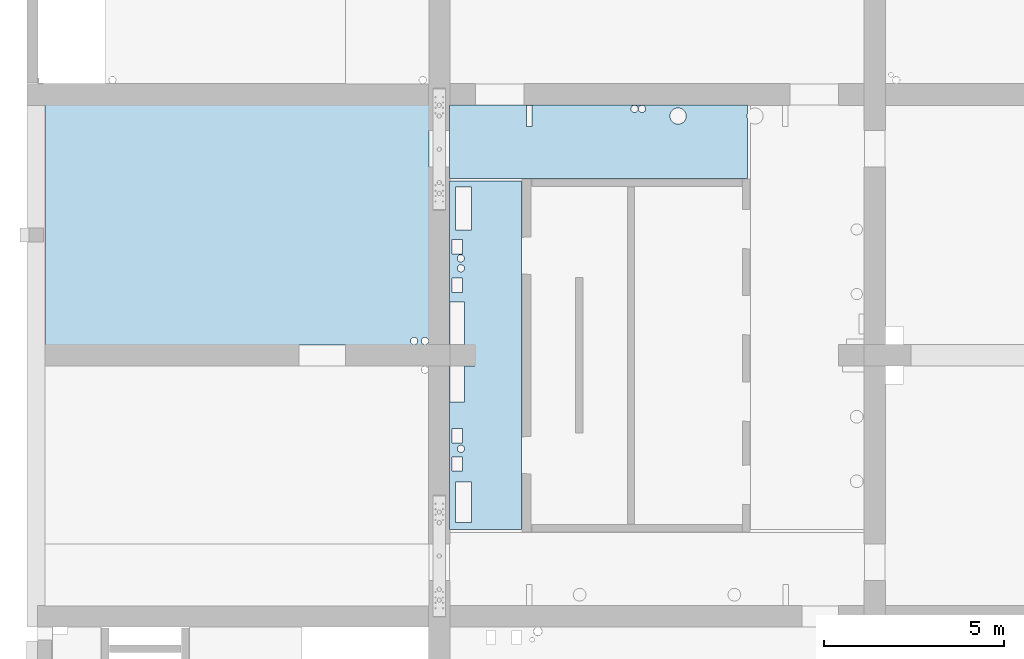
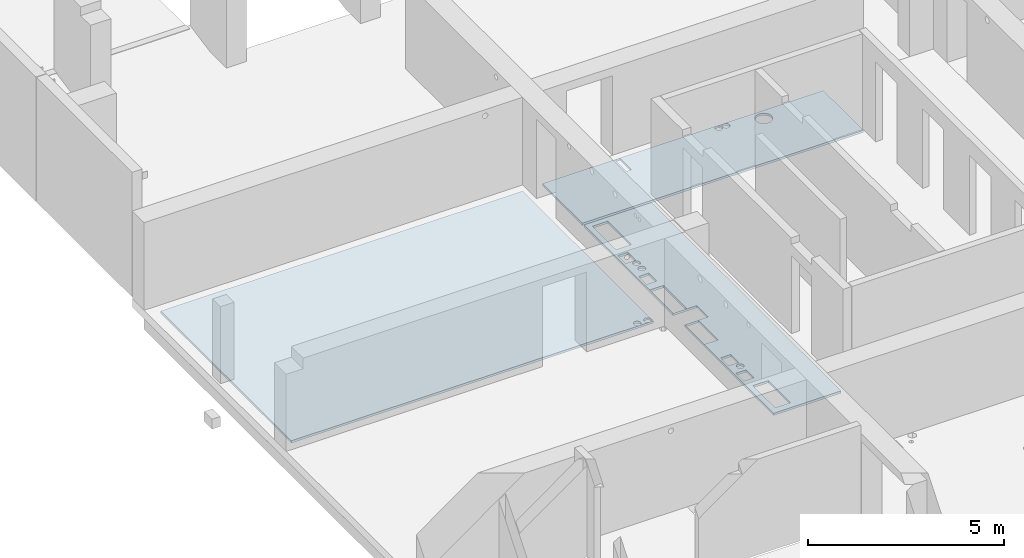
# One storey, part 18 of 27: 3 slabs, 60 openings.
"""IFC2X3 building model written with IfcOpenShell, lengths in millimetres."""

import ifcopenshell
import ifcopenshell.guid

model = None  # the IFC model being written
_history = None  # IfcOwnerHistory: only IFC2X3 demands one
_inside = {}  # id of a spatial element -> (the spatial element, [elements in it])
_under = {}  # id of a project, library or spatial element -> (it, [spatial elements below it])
_declared = {}  # id of a project -> (the project, [libraries it declares])
_typed = {}  # id of a type object -> (the type object, [elements of that type])
_made_of = {}  # id of a material, layer set ... -> (it, [elements and type objects made of it])


def new_model(schema):
    """Start an empty IFC model of exactly this schema.

    Asked for "IFC4X3", IfcOpenShell would pick the latest addendum, in which some entities
    have other attributes; the version numbers below select the first issue.
    IFC2X3 requires an IfcOwnerHistory on every rooted entity: one is made here for all.
    """
    global model, _history
    if schema == "IFC4X3":
        model = ifcopenshell.file(schema_version=(4, 3, 0, 0))
    else:
        model = ifcopenshell.file(schema=schema)
    _inside.clear()
    _under.clear()
    _declared.clear()
    _typed.clear()
    _made_of.clear()
    _history = None
    if model.schema == "IFC2X3":
        org = make("IfcOrganization", Name="unknown")
        user = make(
            "IfcPersonAndOrganization",
            ThePerson=make("IfcPerson", FamilyName="unknown"),
            TheOrganization=org,
        )
        app = make(
            "IfcApplication",
            ApplicationDeveloper=org,
            Version="unknown",
            ApplicationFullName="unknown",
            ApplicationIdentifier="unknown",
        )
        _history = make(
            "IfcOwnerHistory",
            OwningUser=user,
            OwningApplication=app,
            ChangeAction="ADDED",
            CreationDate=0,
        )
    return model


def make(cls, **values):
    """One entity of the class cls with the attributes given. An attribute that is None is left unset."""
    return model.create_entity(
        cls, **{name: value for name, value in values.items() if value is not None}
    )


def entity(cls, *values):
    """Any entity or typed value of the class cls, its attributes in the order of the schema. None: left unset."""
    e = model.create_entity(cls)
    for i, value in enumerate(values):
        if value is not None:
            e[i] = value
    return e


def rooted(cls, **values):
    """An entity with a GlobalId (a new one), such as an element, a storey or a relation."""
    return make(cls, GlobalId=ifcopenshell.guid.new(), OwnerHistory=_history, **values)


def si_unit(unit_type, name, prefix=None):
    """IfcSIUnit, for example si_unit("LENGTHUNIT", "METRE", prefix="MILLI")."""
    return make("IfcSIUnit", UnitType=unit_type, Prefix=prefix, Name=name)


def converted_unit(unit_type, name, factor, base, dimensions=None, offset=None):
    """IfcConversionBasedUnit, such as the inch: factor (a typed value) times the base unit."""
    return make(
        "IfcConversionBasedUnit"
        if offset is None
        else "IfcConversionBasedUnitWithOffset",
        ConversionOffset=offset,
        Dimensions=None
        if dimensions is None
        else entity("IfcDimensionalExponents", *dimensions),
        UnitType=unit_type,
        Name=name,
        ConversionFactor=make(
            "IfcMeasureWithUnit", ValueComponent=factor, UnitComponent=base
        ),
    )


def derived_unit(unit_type, elements):
    """IfcDerivedUnit: a product of units, each with its exponent."""
    return make(
        "IfcDerivedUnit",
        Elements=[
            make("IfcDerivedUnitElement", Unit=unit, Exponent=power)
            for unit, power in elements
        ],
        UnitType=unit_type,
    )


def assignment(units):
    """IfcUnitAssignment: the units of a project."""
    return None if units is None else make("IfcUnitAssignment", Units=units)


def point(xyz):
    """IfcCartesianPoint."""
    return None if xyz is None else make("IfcCartesianPoint", Coordinates=xyz)


def direction(xyz):
    """IfcDirection."""
    return None if xyz is None else make("IfcDirection", DirectionRatios=xyz)


def frame(location, z_axis=None, x_axis=None):
    """IfcAxis2Placement3D, a coordinate frame: its origin and axes. An axis left out is left unset."""
    return make(
        "IfcAxis2Placement3D",
        Location=point(location),
        Axis=direction(z_axis),
        RefDirection=direction(x_axis),
    )


def frame_2d(location, x_axis=None):
    """IfcAxis2Placement2D, a coordinate frame in the plane: its origin and x axis."""
    return make(
        "IfcAxis2Placement2D", Location=point(location), RefDirection=direction(x_axis)
    )


def origin():
    """The frame at (0, 0, 0) with its axes left unset."""
    return frame((0.0, 0.0, 0.0))


def origin_2d_with_axis():
    """The frame at (0, 0) in the plane with the x axis (1, 0) written out."""
    return frame_2d((0.0, 0.0), x_axis=(1.0, 0.0))


def place(relative_to, where):
    """IfcLocalPlacement: puts the frame where relative to a parent placement (None: the world)."""
    return make(
        "IfcLocalPlacement", PlacementRelTo=relative_to, RelativePlacement=where
    )


def context(
    kind, dimensions, precision=None, world=None, true_north=None, identifier=None
):
    """IfcGeometricRepresentationContext, for example the 3D "Model" context."""
    return make(
        "IfcGeometricRepresentationContext",
        ContextIdentifier=identifier,
        ContextType=kind,
        CoordinateSpaceDimension=dimensions,
        Precision=precision,
        WorldCoordinateSystem=world,
        TrueNorth=true_north,
    )


def subcontext(parent, identifier, kind, view, scale=None):
    """IfcGeometricRepresentationSubContext, for example "Body" below "Model"."""
    return make(
        "IfcGeometricRepresentationSubContext",
        ContextIdentifier=identifier,
        ContextType=kind,
        ParentContext=parent,
        TargetScale=scale,
        TargetView=view,
    )


def project(units=None, contexts=None):
    """IfcProject with its units and contexts."""
    return rooted(
        "IfcProject",
        Name="project",
        RepresentationContexts=contexts,
        UnitsInContext=assignment(units),
    )


def spatial(cls, under=None, at=None, **own):
    """A site, building, storey or space (cls), placed at a placement, below another one or the project."""
    s = rooted(cls, ObjectPlacement=at, **own)
    if under is not None:
        _under.setdefault(under.id(), (under, []))[1].append(s)
    return s


def polyline(points):
    """IfcPolyline through the points."""
    return make("IfcPolyline", Points=[point(p) for p in points])


def profile(cls, at=None, kind="AREA", **sizes):
    """A parametric profile (cls). Its sizes go by their IFC names, for example OverallWidth=200.0."""
    return make(cls, ProfileType=kind, Position=at, **sizes)


def rectangle(**sizes):
    """IfcRectangleProfileDef."""
    return profile("IfcRectangleProfileDef", **sizes)


def circle(**sizes):
    """IfcCircleProfileDef."""
    return profile("IfcCircleProfileDef", **sizes)


def outline(outer, holes=None, kind="AREA"):
    """IfcArbitraryClosedProfileDef: a profile drawn as a closed curve; with holes, ...WithVoids."""
    if holes is None:
        return make("IfcArbitraryClosedProfileDef", ProfileType=kind, OuterCurve=outer)
    return make(
        "IfcArbitraryProfileDefWithVoids",
        ProfileType=kind,
        OuterCurve=outer,
        InnerCurves=holes,
    )


def extrude(swept, where, along, depth):
    """IfcExtrudedAreaSolid: the profile swept, set in the frame where, extruded along a direction by depth."""
    return make(
        "IfcExtrudedAreaSolid",
        SweptArea=swept,
        Position=where,
        ExtrudedDirection=direction(along),
        Depth=depth,
    )


def shape(context_of_items, identifier, shape_type, items):
    """IfcShapeRepresentation: the items that make up one representation, for example the "Body"."""
    return make(
        "IfcShapeRepresentation",
        ContextOfItems=context_of_items,
        RepresentationIdentifier=identifier,
        RepresentationType=shape_type,
        Items=items,
    )


def material(Name=None, Category=None):
    """IfcMaterial."""
    return make("IfcMaterial", Name=Name, Category=Category)


def layer(
    of_material, thickness, ventilated=None, Name=None, Category=None, Priority=None
):
    """IfcMaterialLayer: one layer of a wall or slab, of a material (None: an air gap)."""
    return make(
        "IfcMaterialLayer",
        Material=of_material,
        LayerThickness=thickness,
        IsVentilated=ventilated,
        Name=Name,
        Category=Category,
        Priority=Priority,
    )


def layer_set(layers, Name=None):
    """IfcMaterialLayerSet."""
    return make("IfcMaterialLayerSet", MaterialLayers=layers, LayerSetName=Name)


def layer_usage(for_layer_set, set_direction, sense, offset, extent=None):
    """IfcMaterialLayerSetUsage: how a layer set lies in its element."""
    return make(
        "IfcMaterialLayerSetUsage",
        ForLayerSet=for_layer_set,
        LayerSetDirection=set_direction,
        DirectionSense=sense,
        OffsetFromReferenceLine=offset,
        ReferenceExtent=extent,
    )


def made_of(thing, what):
    """Note that an element or type object is made of a material, layer set ...; save() writes the relation."""
    if what is not None:
        _made_of.setdefault(what.id(), (what, []))[1].append(thing)
    return thing


def element(
    cls,
    number,
    at=None,
    inside=None,
    cuts=None,
    type_object=None,
    material=None,
    context=None,
    identifier="Body",
    shape_type=None,
    held_by="IfcProductDefinitionShape",
    body=None,
    shapes=None,
    **own,
):
    """One element of the class cls, such as IfcWall. Its Tag is "e" and its number.

    at: its placement. inside: the storey or other place that contains it. cuts: it is an
    opening in that element (IfcRelVoidsElement). A single representation is given by context,
    identifier, shape_type and body (its items); several are given by shapes. held_by: the class
    of the entity that holds the representations. save() writes the other relations.
    """
    e = rooted(cls, Tag="e%d" % number, ObjectPlacement=at, **own)
    if body is not None:
        shapes = [shape(context, identifier, shape_type, body)]
    if shapes is not None:
        e.Representation = make(held_by, Representations=shapes)
    if inside is not None:
        _inside.setdefault(inside.id(), (inside, []))[1].append(e)
    if cuts is not None:
        rooted(
            "IfcRelVoidsElement", RelatingBuildingElement=cuts, RelatedOpeningElement=e
        )
    if type_object is not None:
        _typed.setdefault(type_object.id(), (type_object, []))[1].append(e)
    return made_of(e, material)


def aggregate(whole, parts):
    """IfcRelAggregates: a whole, such as a stair, and the parts it consists of."""
    return rooted("IfcRelAggregates", RelatingObject=whole, RelatedObjects=parts)


def save(model, path):
    """Write the relations noted so far, then the file.

    IfcRelAggregates (storeys below a building ...), IfcRelContainedInSpatialStructure (elements
    in a storey), IfcRelDefinesByType, IfcRelAssociatesMaterial and IfcRelDeclares: one each for
    every whole, place, type object, material and project.
    """
    for whole, parts in _under.values():
        aggregate(whole, parts)
    for where, things in _inside.values():
        rooted(
            "IfcRelContainedInSpatialStructure",
            RelatedElements=things,
            RelatingStructure=where,
        )
    for kind, things in _typed.values():
        rooted("IfcRelDefinesByType", RelatedObjects=things, RelatingType=kind)
    for what, things in _made_of.values():
        rooted("IfcRelAssociatesMaterial", RelatedObjects=things, RelatingMaterial=what)
    for by, libraries in _declared.values():
        rooted("IfcRelDeclares", RelatingContext=by, RelatedDefinitions=libraries)
    model.write(path)


model = new_model("IFC2X3")

# Units and contexts
model_context = context("Model", 3, precision=0.01, world=origin(), true_north=direction((6.12303176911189e-17, 1.0)))
body_context = subcontext(model_context, "Body", "Model", "MODEL_VIEW")
ifc_project = project(units=[si_unit("LENGTHUNIT", "METRE", prefix="MILLI"), si_unit("AREAUNIT", "SQUARE_METRE"), si_unit("VOLUMEUNIT", "CUBIC_METRE"), converted_unit("PLANEANGLEUNIT", "DEGREE", entity("IfcRatioMeasure", 0.0174532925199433), si_unit("PLANEANGLEUNIT", "RADIAN"), dimensions=[0, 0, 0, 0, 0, 0, 0]), si_unit("MASSUNIT", "GRAM", prefix="KILO"), derived_unit("MASSDENSITYUNIT", [(si_unit("MASSUNIT", "GRAM", prefix="KILO"), 1), (si_unit("LENGTHUNIT", "METRE"), -3)]), si_unit("TIMEUNIT", "SECOND"), si_unit("FREQUENCYUNIT", "HERTZ"), si_unit("THERMODYNAMICTEMPERATUREUNIT", "DEGREE_CELSIUS"), derived_unit("THERMALTRANSMITTANCEUNIT", [(si_unit("MASSUNIT", "GRAM", prefix="KILO"), 1), (si_unit("THERMODYNAMICTEMPERATUREUNIT", "KELVIN"), -1), (si_unit("TIMEUNIT", "SECOND"), -3)]), derived_unit("VOLUMETRICFLOWRATEUNIT", [(si_unit("LENGTHUNIT", "METRE"), 3), (si_unit("TIMEUNIT", "SECOND"), -1)]), si_unit("ELECTRICCURRENTUNIT", "AMPERE"), si_unit("ELECTRICVOLTAGEUNIT", "VOLT"), si_unit("POWERUNIT", "WATT"), si_unit("FORCEUNIT", "NEWTON", prefix="KILO"), si_unit("ILLUMINANCEUNIT", "LUX"), si_unit("LUMINOUSFLUXUNIT", "LUMEN"), si_unit("LUMINOUSINTENSITYUNIT", "CANDELA"), derived_unit("USERDEFINED", [(si_unit("MASSUNIT", "GRAM", prefix="KILO"), -1), (si_unit("LENGTHUNIT", "METRE"), -2), (si_unit("TIMEUNIT", "SECOND"), 3), (si_unit("LUMINOUSFLUXUNIT", "LUMEN"), 1)]), derived_unit("LINEARVELOCITYUNIT", [(si_unit("LENGTHUNIT", "METRE"), 1), (si_unit("TIMEUNIT", "SECOND"), -1)]), si_unit("PRESSUREUNIT", "PASCAL"), derived_unit("USERDEFINED", [(si_unit("LENGTHUNIT", "METRE"), -2), (si_unit("MASSUNIT", "GRAM", prefix="KILO"), 1), (si_unit("TIMEUNIT", "SECOND"), -2)])], contexts=[model_context])

# Site, building, storey
site_placement = place(None, origin())
site = spatial("IfcSite", under=ifc_project, at=site_placement, Name="Default", CompositionType="ELEMENT")
building_placement = place(site_placement, origin())
building = spatial("IfcBuilding", under=site, at=building_placement, Name="niet gebruiken", CompositionType="ELEMENT")
storey_placement = place(building_placement, frame((0.0, 0.0, 6000.0)))
storey = spatial("IfcBuildingStorey", under=building, at=storey_placement, Name="01 eerste verdieping", CompositionType="ELEMENT", Elevation=6000.0)

# Slab, openings
ifc_material = material(Name="NLRS_f2_beton prefab")
ifc_layer = layer(ifc_material, 70.0)
ifc_layer_set = layer_set([ifc_layer], Name="Floor:NLRS_23.21_FL_breedplaat d=70_gen")
ifc_layer_usage_1 = layer_usage(ifc_layer_set, "AXIS3", "POSITIVE", 0.0)
slab_1_placement = place(storey_placement, frame((124740.0, 12266.0, -360.0)))
slab_1 = element("IfcSlab", 1, at=slab_1_placement, inside=storey, material=ifc_layer_usage_1, Name="Floor:NLRS_23.21_FL_breedplaat d=70_gen:2", ObjectType="Floor:NLRS_23.21_FL_breedplaat d=70_gen", PredefinedType="FLOOR", context=body_context, shape_type="SweptSolid", body=[
    extrude(rectangle(XDim=6670.00000000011, YDim=10669.9999999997, at=frame_2d((0.0, -1378.0), x_axis=(0.0, -1.0))), frame((5335.0, 10237.0, 70.0), z_axis=(0.0, 0.0, -1.0), x_axis=(-1.0, 0.0, 0.0)), (0.0, 0.0, 1.0), 70.0000000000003),
])
placement_1 = place(storey_placement, frame((124740.0, 12266.0, -360.0)))
opening_1_placement = place(placement_1, origin())
element("IfcOpeningElement", 2, at=opening_1_placement, cuts=slab_1, ObjectType="Opening", context=body_context, shape_type="SweptSolid", body=[
    extrude(circle(Radius=100.0, at=origin_2d_with_axis()), frame((10560.0, 4834.0, 0.0), z_axis=(0.0, 0.0, 1.0), x_axis=(0.0, -1.0, 0.0)), (0.0, 0.0, 1.0), 270.0),
])
opening_2_placement = place(placement_1, origin())
element("IfcOpeningElement", 3, at=opening_2_placement, cuts=slab_1, ObjectType="Opening", context=body_context, shape_type="SweptSolid", body=[
    extrude(circle(Radius=100.0, at=origin_2d_with_axis()), frame((10560.0, 5634.0, 0.0), z_axis=(0.0, 0.0, 1.0), x_axis=(0.0, -1.0, 0.0)), (0.0, 0.0, 1.0), 270.0),
])
opening_3_placement = place(placement_1, origin())
element("IfcOpeningElement", 4, at=opening_3_placement, cuts=slab_1, ObjectType="Opening", context=body_context, shape_type="SweptSolid", body=[
    extrude(circle(Radius=100.0, at=origin_2d_with_axis()), frame((10260.0, 5634.0, 0.0), z_axis=(0.0, 0.0, 1.0), x_axis=(0.0, -1.0, 0.0)), (0.0, 0.0, 1.0), 270.0),
])
opening_4_placement = place(placement_1, origin())
element("IfcOpeningElement", 5, at=opening_4_placement, cuts=slab_1, ObjectType="Opening", context=body_context, shape_type="SweptSolid", body=[
    extrude(circle(Radius=100.0, at=origin_2d_with_axis()), frame((1880.0, 12884.0, 0.0), z_axis=(0.0, 0.0, 1.0), x_axis=(-1.0, 0.0, 0.0)), (0.0, 0.0, 1.0), 270.0),
])

ifc_layer_usage_2 = layer_usage(ifc_layer_set, "AXIS3", "POSITIVE", 0.0)
slab_2_placement = place(storey_placement, frame((135990.0, 10540.0, -330.0)))
slab_2 = element("IfcSlab", 6, at=slab_2_placement, inside=storey, material=ifc_layer_usage_2, Name="Floor:NLRS_23.21_FL_breedplaat d=70_gen", ObjectType="Floor:NLRS_23.21_FL_breedplaat d=70_gen", PredefinedType="FLOOR", context=body_context, shape_type="SweptSolid", body=[
    extrude(outline(polyline([(5760.0, -4840.0), (5760.0, -290.0), (5060.0, -290.0), (5060.0, 290.0), (5760.0, 290.0), (5760.0, 4840.0), (3770.0, 4840.0), (3770.0, -4840.0), (5760.0, -4840.0)])), frame((5760.0, 6960.0, 70.0), z_axis=(0.0, 0.0, -1.0), x_axis=(-1.0, 0.0, 0.0)), (0.0, 0.0, 1.0), 70.0000000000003),
])
placement_2 = place(slab_2_placement, origin())
element("IfcOpeningElement", 7, at=placement_2, cuts=slab_2, ObjectType="Opening", context=body_context, shape_type="SweptSolid", body=[
    extrude(circle(Radius=225.0, at=origin_2d_with_axis()), frame((8485.0, 13610.0, 0.0), z_axis=(0.0, 0.0, 1.0), x_axis=(-1.0, 0.0, 0.0)), (0.0, 0.0, 1.0), 240.0),
])
placement_3 = place(slab_2_placement, origin())
element("IfcOpeningElement", 8, at=placement_3, cuts=slab_2, ObjectType="Opening", context=body_context, shape_type="SweptSolid", body=[
    extrude(circle(Radius=100.0, at=origin_2d_with_axis()), frame((5135.0, 13810.0, 0.0), z_axis=(0.0, 0.0, 1.0), x_axis=(-1.0, 0.0, 0.0)), (0.0, 0.0, 1.0), 240.0),
])
placement_4 = place(slab_2_placement, origin())
element("IfcOpeningElement", 9, at=placement_4, cuts=slab_2, ObjectType="Opening", context=body_context, shape_type="SweptSolid", body=[
    extrude(circle(Radius=100.0, at=origin_2d_with_axis()), frame((5345.0, 13810.0, 0.0), z_axis=(0.0, 0.0, 1.0), x_axis=(-1.0, 0.0, 0.0)), (0.0, 0.0, 1.0), 240.0),
])
placement_5 = place(slab_2_placement, origin())
element("IfcOpeningElement", 10, at=placement_5, cuts=slab_2, ObjectType="Opening", context=body_context, shape_type="SweptSolid", body=[
    extrude(circle(Radius=100.0, at=origin_2d_with_axis()), frame((310.0, 4365.0, 0.0), z_axis=(0.0, 0.0, 1.0), x_axis=(0.0, 1.0, 0.0)), (0.0, 0.0, 1.0), 240.0),
])
placement_6 = place(slab_2_placement, origin())
element("IfcOpeningElement", 11, at=placement_6, cuts=slab_2, ObjectType="Opening", context=body_context, shape_type="SweptSolid", body=[
    extrude(rectangle(XDim=150.000000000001, YDim=590.000000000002, at=origin_2d_with_axis()), frame((2210.0, 305.0, 0.0)), (0.0, 0.0, 1.0), 240.0),
])
placement_7 = place(slab_2_placement, origin())
element("IfcOpeningElement", 12, at=placement_7, cuts=slab_2, ObjectType="Opening", context=body_context, shape_type="SweptSolid", body=[
    extrude(circle(Radius=177.5, at=origin_2d_with_axis()), frame((11310.0, 3461.0, 0.0), z_axis=(0.0, 0.0, 1.0), x_axis=(0.0, 1.0, 0.0)), (0.0, 0.0, 1.0), 240.0),
])
placement_8 = place(slab_2_placement, origin())
element("IfcOpeningElement", 13, at=placement_8, cuts=slab_2, ObjectType="Opening", context=body_context, shape_type="SweptSolid", body=[
    extrude(rectangle(XDim=1000.0, YDim=400.000000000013, at=origin_2d_with_axis()), frame((210.0, 6160.0, 0.0), z_axis=(0.0, 0.0, 1.0), x_axis=(0.0, -1.0, 0.0)), (0.0, 0.0, 1.0), 240.0),
])
placement_9 = place(slab_2_placement, origin())
element("IfcOpeningElement", 14, at=placement_9, cuts=slab_2, ObjectType="Opening", context=body_context, shape_type="SweptSolid", body=[
    extrude(rectangle(XDim=400.000000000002, YDim=300.000000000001, at=origin_2d_with_axis()), frame((210.0, 4730.0, 0.0), z_axis=(0.0, 0.0, 1.0), x_axis=(0.0, -1.0, 0.0)), (0.0, 0.0, 1.0), 240.0),
])
placement_10 = place(slab_2_placement, origin())
element("IfcOpeningElement", 15, at=placement_10, cuts=slab_2, ObjectType="Opening", context=body_context, shape_type="SweptSolid", body=[
    extrude(rectangle(XDim=1190.0, YDim=400.000000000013, at=origin_2d_with_axis()), frame((210.0, 7855.0, 0.0), z_axis=(0.0, 0.0, 1.0), x_axis=(0.0, -1.0, 0.0)), (0.0, 0.0, 1.0), 240.0),
])
placement_11 = place(slab_2_placement, origin())
element("IfcOpeningElement", 16, at=placement_11, cuts=slab_2, ObjectType="Opening", context=body_context, shape_type="SweptSolid", body=[
    extrude(rectangle(XDim=400.000000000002, YDim=300.000000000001, at=origin_2d_with_axis()), frame((210.0, 8910.0, 0.0), z_axis=(0.0, 0.0, 1.0), x_axis=(0.0, -1.0, 0.0)), (0.0, 0.0, 1.0), 240.0),
])
placement_12 = place(slab_2_placement, origin())
element("IfcOpeningElement", 17, at=placement_12, cuts=slab_2, ObjectType="Opening", context=body_context, shape_type="SweptSolid", body=[
    extrude(rectangle(XDim=1200.0, YDim=450.000000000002, at=origin_2d_with_axis()), frame((385.0, 11040.0, 0.0), z_axis=(0.0, 0.0, 1.0), x_axis=(0.0, -1.0, 0.0)), (0.0, 0.0, 1.0), 240.0),
])
placement_13 = place(slab_2_placement, origin())
element("IfcOpeningElement", 18, at=placement_13, cuts=slab_2, ObjectType="Opening", context=body_context, shape_type="SweptSolid", body=[
    extrude(rectangle(XDim=600.000000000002, YDim=155.000000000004, at=origin_2d_with_axis()), frame((11210.0, 6582.49999999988, 0.0)), (0.0, 0.0, 1.0), 240.0),
])
placement_14 = place(slab_2_placement, origin())
element("IfcOpeningElement", 19, at=placement_14, cuts=slab_2, ObjectType="Opening", context=body_context, shape_type="SweptSolid", body=[
    extrude(rectangle(XDim=489.999999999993, YDim=150.000000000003, at=origin_2d_with_axis()), frame((11265.0, 7335.0, 0.0)), (0.0, 0.0, 1.0), 240.0),
])
placement_15 = place(slab_2_placement, origin())
element("IfcOpeningElement", 20, at=placement_15, cuts=slab_2, ObjectType="Opening", context=body_context, shape_type="SweptSolid", body=[
    extrude(rectangle(XDim=150.000000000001, YDim=590.000000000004, at=origin_2d_with_axis()), frame((9325.0, 13615.0, 0.0)), (0.0, 0.0, 1.0), 240.0),
])
placement_16 = place(slab_2_placement, origin())
element("IfcOpeningElement", 21, at=placement_16, cuts=slab_2, ObjectType="Opening", context=body_context, shape_type="SweptSolid", body=[
    extrude(rectangle(XDim=150.000000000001, YDim=590.000000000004, at=origin_2d_with_axis()), frame((2205.0, 13615.0, 0.0)), (0.0, 0.0, 1.0), 240.0),
])
placement_17 = place(slab_2_placement, origin())
element("IfcOpeningElement", 22, at=placement_17, cuts=slab_2, ObjectType="Opening", context=body_context, shape_type="SweptSolid", body=[
    extrude(circle(Radius=157.5, at=origin_2d_with_axis()), frame((11310.0, 10460.0, 0.0), z_axis=(0.0, 0.0, 1.0), x_axis=(0.0, 1.0, 0.0)), (0.0, 0.0, 1.0), 240.0),
])
placement_18 = place(slab_2_placement, origin())
element("IfcOpeningElement", 23, at=placement_18, cuts=slab_2, ObjectType="Opening", context=body_context, shape_type="SweptSolid", body=[
    extrude(circle(Radius=157.5, at=origin_2d_with_axis()), frame((11310.0, 8665.0, 0.0), z_axis=(0.0, 0.0, 1.0), x_axis=(0.0, 1.0, 0.0)), (0.0, 0.0, 1.0), 240.0),
])
placement_19 = place(slab_2_placement, origin())
element("IfcOpeningElement", 24, at=placement_19, cuts=slab_2, ObjectType="Opening", context=body_context, shape_type="SweptSolid", body=[
    extrude(rectangle(XDim=550.000000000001, YDim=140.000000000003, at=origin_2d_with_axis()), frame((11440.0, 7830.0, 0.0), z_axis=(0.0, 0.0, 1.0), x_axis=(0.0, -1.0, 0.0)), (0.0, 0.0, 1.0), 240.0),
])
placement_20 = place(slab_2_placement, origin())
element("IfcOpeningElement", 25, at=placement_20, cuts=slab_2, ObjectType="Opening", context=body_context, shape_type="SweptSolid", body=[
    extrude(circle(Radius=177.5, at=origin_2d_with_axis()), frame((11310.0, 5255.0, 0.0), z_axis=(0.0, 0.0, 1.0), x_axis=(0.0, 1.0, 0.0)), (0.0, 0.0, 1.0), 240.0),
])
placement_21 = place(slab_2_placement, origin())
element("IfcOpeningElement", 26, at=placement_21, cuts=slab_2, ObjectType="Opening", context=body_context, shape_type="SweptSolid", body=[
    extrude(rectangle(XDim=150.000000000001, YDim=590.000000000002, at=origin_2d_with_axis()), frame((9335.0, 305.0, 0.0)), (0.0, 0.0, 1.0), 240.0),
])
placement_22 = place(slab_2_placement, origin())
element("IfcOpeningElement", 27, at=placement_22, cuts=slab_2, ObjectType="Opening", context=body_context, shape_type="SweptSolid", body=[
    extrude(circle(Radius=177.5, at=origin_2d_with_axis()), frame((7910.0, 310.0, 0.0), z_axis=(0.0, 0.0, 1.0), x_axis=(-1.0, 0.0, 0.0)), (0.0, 0.0, 1.0), 240.0),
])
placement_23 = place(slab_2_placement, origin())
element("IfcOpeningElement", 28, at=placement_23, cuts=slab_2, ObjectType="Opening", context=body_context, shape_type="SweptSolid", body=[
    extrude(circle(Radius=177.5, at=origin_2d_with_axis()), frame((3610.0, 310.0, 0.0), z_axis=(0.0, 0.0, 1.0), x_axis=(-1.0, 0.0, 0.0)), (0.0, 0.0, 1.0), 240.0),
])
placement_24 = place(slab_2_placement, origin())
element("IfcOpeningElement", 29, at=placement_24, cuts=slab_2, ObjectType="Opening", context=body_context, shape_type="SweptSolid", body=[
    extrude(rectangle(XDim=1129.0, YDim=450.000000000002, at=origin_2d_with_axis()), frame((385.0, 2884.49999999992, 0.0), z_axis=(0.0, 0.0, 1.0), x_axis=(0.0, -1.0, 0.0)), (0.0, 0.0, 1.0), 240.0),
])
placement_25 = place(slab_2_placement, origin())
element("IfcOpeningElement", 30, at=placement_25, cuts=slab_2, ObjectType="Opening", context=body_context, shape_type="SweptSolid", body=[
    extrude(rectangle(XDim=400.000000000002, YDim=300.000000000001, at=origin_2d_with_axis()), frame((210.0, 3943.0, 0.0), z_axis=(0.0, 0.0, 1.0), x_axis=(0.0, -1.0, 0.0)), (0.0, 0.0, 1.0), 240.0),
])
placement_26 = place(slab_2_placement, origin())
element("IfcOpeningElement", 31, at=placement_26, cuts=slab_2, ObjectType="Opening", context=body_context, shape_type="SweptSolid", body=[
    extrude(circle(Radius=225.0, at=origin_2d_with_axis()), frame((6345.0, 13610.0, 0.0), z_axis=(0.0, 0.0, 1.0), x_axis=(-1.0, 0.0, 0.0)), (0.0, 0.0, 1.0), 240.0),
])
placement_27 = place(slab_2_placement, origin())
element("IfcOpeningElement", 32, at=placement_27, cuts=slab_2, ObjectType="Opening", context=body_context, shape_type="SweptSolid", body=[
    extrude(circle(Radius=100.0, at=origin_2d_with_axis()), frame((310.0, 9380.0, 0.0), z_axis=(0.0, 0.0, 1.0), x_axis=(0.0, 1.0, 0.0)), (0.0, 0.0, 1.0), 240.0),
])
placement_28 = place(slab_2_placement, origin())
element("IfcOpeningElement", 33, at=placement_28, cuts=slab_2, ObjectType="Opening", context=body_context, shape_type="SweptSolid", body=[
    extrude(circle(Radius=100.0, at=origin_2d_with_axis()), frame((310.0, 9655.0, 0.0), z_axis=(0.0, 0.0, 1.0), x_axis=(0.0, 1.0, 0.0)), (0.0, 0.0, 1.0), 240.0),
])
placement_29 = place(slab_2_placement, origin())
element("IfcOpeningElement", 34, at=placement_29, cuts=slab_2, ObjectType="Opening", context=body_context, shape_type="SweptSolid", body=[
    extrude(rectangle(XDim=400.0, YDim=300.000000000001, at=origin_2d_with_axis()), frame((210.0, 9980.0, 0.0), z_axis=(0.0, 0.0, 1.0), x_axis=(0.0, -1.0, 0.0)), (0.0, 0.0, 1.0), 240.0),
])

slab_3_placement = place(storey_placement, frame((135990.0, 10540.0, -330.0)))
slab_3 = element("IfcSlab", 35, at=slab_3_placement, inside=storey, material=ifc_layer_usage_2, Name="Floor:NLRS_23.21_FL_breedplaat d=70_gen:4", ObjectType="Floor:NLRS_23.21_FL_breedplaat d=70_gen", PredefinedType="FLOOR", context=body_context, shape_type="SweptSolid", body=[
    extrude(rectangle(XDim=8279.99999999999, YDim=2039.99999999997, at=frame_2d((1620.0, 5940.0), x_axis=(-1.0, 0.0))), frame((5760.0, 6960.0, 70.0), z_axis=(0.0, 0.0, -1.0), x_axis=(-1.0, 0.0, 0.0)), (0.0, 0.0, 1.0), 70.0000000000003),
])
element("IfcOpeningElement", 36, at=placement_2, cuts=slab_3, ObjectType="Opening", context=body_context, shape_type="SweptSolid", body=[
    extrude(circle(Radius=225.0, at=origin_2d_with_axis()), frame((8485.0, 13610.0, 0.0), z_axis=(0.0, 0.0, 1.0), x_axis=(-1.0, 0.0, 0.0)), (0.0, 0.0, 1.0), 240.0),
])
element("IfcOpeningElement", 37, at=placement_3, cuts=slab_3, ObjectType="Opening", context=body_context, shape_type="SweptSolid", body=[
    extrude(circle(Radius=100.0, at=origin_2d_with_axis()), frame((5135.0, 13810.0, 0.0), z_axis=(0.0, 0.0, 1.0), x_axis=(-1.0, 0.0, 0.0)), (0.0, 0.0, 1.0), 240.0),
])
element("IfcOpeningElement", 38, at=placement_4, cuts=slab_3, ObjectType="Opening", context=body_context, shape_type="SweptSolid", body=[
    extrude(circle(Radius=100.0, at=origin_2d_with_axis()), frame((5345.0, 13810.0, 0.0), z_axis=(0.0, 0.0, 1.0), x_axis=(-1.0, 0.0, 0.0)), (0.0, 0.0, 1.0), 240.0),
])
element("IfcOpeningElement", 39, at=placement_5, cuts=slab_3, ObjectType="Opening", context=body_context, shape_type="SweptSolid", body=[
    extrude(circle(Radius=100.0, at=origin_2d_with_axis()), frame((310.0, 4365.0, 0.0), z_axis=(0.0, 0.0, 1.0), x_axis=(0.0, 1.0, 0.0)), (0.0, 0.0, 1.0), 240.0),
])
element("IfcOpeningElement", 40, at=placement_6, cuts=slab_3, ObjectType="Opening", context=body_context, shape_type="SweptSolid", body=[
    extrude(rectangle(XDim=150.000000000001, YDim=590.000000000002, at=origin_2d_with_axis()), frame((2210.0, 305.0, 0.0)), (0.0, 0.0, 1.0), 240.0),
])
element("IfcOpeningElement", 41, at=placement_7, cuts=slab_3, ObjectType="Opening", context=body_context, shape_type="SweptSolid", body=[
    extrude(circle(Radius=177.5, at=origin_2d_with_axis()), frame((11310.0, 3461.0, 0.0), z_axis=(0.0, 0.0, 1.0), x_axis=(0.0, 1.0, 0.0)), (0.0, 0.0, 1.0), 240.0),
])
element("IfcOpeningElement", 42, at=placement_8, cuts=slab_3, ObjectType="Opening", context=body_context, shape_type="SweptSolid", body=[
    extrude(rectangle(XDim=1000.0, YDim=400.000000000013, at=origin_2d_with_axis()), frame((210.0, 6160.0, 0.0), z_axis=(0.0, 0.0, 1.0), x_axis=(0.0, -1.0, 0.0)), (0.0, 0.0, 1.0), 240.0),
])
element("IfcOpeningElement", 43, at=placement_9, cuts=slab_3, ObjectType="Opening", context=body_context, shape_type="SweptSolid", body=[
    extrude(rectangle(XDim=400.000000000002, YDim=300.000000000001, at=origin_2d_with_axis()), frame((210.0, 4730.0, 0.0), z_axis=(0.0, 0.0, 1.0), x_axis=(0.0, -1.0, 0.0)), (0.0, 0.0, 1.0), 240.0),
])
element("IfcOpeningElement", 44, at=placement_10, cuts=slab_3, ObjectType="Opening", context=body_context, shape_type="SweptSolid", body=[
    extrude(rectangle(XDim=1190.0, YDim=400.000000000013, at=origin_2d_with_axis()), frame((210.0, 7855.0, 0.0), z_axis=(0.0, 0.0, 1.0), x_axis=(0.0, -1.0, 0.0)), (0.0, 0.0, 1.0), 240.0),
])
element("IfcOpeningElement", 45, at=placement_11, cuts=slab_3, ObjectType="Opening", context=body_context, shape_type="SweptSolid", body=[
    extrude(rectangle(XDim=400.000000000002, YDim=300.000000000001, at=origin_2d_with_axis()), frame((210.0, 8910.0, 0.0), z_axis=(0.0, 0.0, 1.0), x_axis=(0.0, -1.0, 0.0)), (0.0, 0.0, 1.0), 240.0),
])
element("IfcOpeningElement", 46, at=placement_12, cuts=slab_3, ObjectType="Opening", context=body_context, shape_type="SweptSolid", body=[
    extrude(rectangle(XDim=1200.0, YDim=450.000000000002, at=origin_2d_with_axis()), frame((385.0, 11040.0, 0.0), z_axis=(0.0, 0.0, 1.0), x_axis=(0.0, -1.0, 0.0)), (0.0, 0.0, 1.0), 240.0),
])
element("IfcOpeningElement", 47, at=placement_13, cuts=slab_3, ObjectType="Opening", context=body_context, shape_type="SweptSolid", body=[
    extrude(rectangle(XDim=600.000000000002, YDim=155.000000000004, at=origin_2d_with_axis()), frame((11210.0, 6582.49999999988, 0.0)), (0.0, 0.0, 1.0), 240.0),
])
element("IfcOpeningElement", 48, at=placement_14, cuts=slab_3, ObjectType="Opening", context=body_context, shape_type="SweptSolid", body=[
    extrude(rectangle(XDim=489.999999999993, YDim=150.000000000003, at=origin_2d_with_axis()), frame((11265.0, 7335.0, 0.0)), (0.0, 0.0, 1.0), 240.0),
])
element("IfcOpeningElement", 49, at=placement_15, cuts=slab_3, ObjectType="Opening", context=body_context, shape_type="SweptSolid", body=[
    extrude(rectangle(XDim=150.000000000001, YDim=590.000000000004, at=origin_2d_with_axis()), frame((9325.0, 13615.0, 0.0)), (0.0, 0.0, 1.0), 240.0),
])
element("IfcOpeningElement", 50, at=placement_16, cuts=slab_3, ObjectType="Opening", context=body_context, shape_type="SweptSolid", body=[
    extrude(rectangle(XDim=150.000000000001, YDim=590.000000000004, at=origin_2d_with_axis()), frame((2205.0, 13615.0, 0.0)), (0.0, 0.0, 1.0), 240.0),
])
element("IfcOpeningElement", 51, at=placement_17, cuts=slab_3, ObjectType="Opening", context=body_context, shape_type="SweptSolid", body=[
    extrude(circle(Radius=157.5, at=origin_2d_with_axis()), frame((11310.0, 10460.0, 0.0), z_axis=(0.0, 0.0, 1.0), x_axis=(0.0, 1.0, 0.0)), (0.0, 0.0, 1.0), 240.0),
])
element("IfcOpeningElement", 52, at=placement_18, cuts=slab_3, ObjectType="Opening", context=body_context, shape_type="SweptSolid", body=[
    extrude(circle(Radius=157.5, at=origin_2d_with_axis()), frame((11310.0, 8665.0, 0.0), z_axis=(0.0, 0.0, 1.0), x_axis=(0.0, 1.0, 0.0)), (0.0, 0.0, 1.0), 240.0),
])
element("IfcOpeningElement", 53, at=placement_19, cuts=slab_3, ObjectType="Opening", context=body_context, shape_type="SweptSolid", body=[
    extrude(rectangle(XDim=550.000000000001, YDim=140.000000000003, at=origin_2d_with_axis()), frame((11440.0, 7830.0, 0.0), z_axis=(0.0, 0.0, 1.0), x_axis=(0.0, -1.0, 0.0)), (0.0, 0.0, 1.0), 240.0),
])
element("IfcOpeningElement", 54, at=placement_20, cuts=slab_3, ObjectType="Opening", context=body_context, shape_type="SweptSolid", body=[
    extrude(circle(Radius=177.5, at=origin_2d_with_axis()), frame((11310.0, 5255.0, 0.0), z_axis=(0.0, 0.0, 1.0), x_axis=(0.0, 1.0, 0.0)), (0.0, 0.0, 1.0), 240.0),
])
element("IfcOpeningElement", 55, at=placement_21, cuts=slab_3, ObjectType="Opening", context=body_context, shape_type="SweptSolid", body=[
    extrude(rectangle(XDim=150.000000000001, YDim=590.000000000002, at=origin_2d_with_axis()), frame((9335.0, 305.0, 0.0)), (0.0, 0.0, 1.0), 240.0),
])
element("IfcOpeningElement", 56, at=placement_22, cuts=slab_3, ObjectType="Opening", context=body_context, shape_type="SweptSolid", body=[
    extrude(circle(Radius=177.5, at=origin_2d_with_axis()), frame((7910.0, 310.0, 0.0), z_axis=(0.0, 0.0, 1.0), x_axis=(-1.0, 0.0, 0.0)), (0.0, 0.0, 1.0), 240.0),
])
element("IfcOpeningElement", 57, at=placement_23, cuts=slab_3, ObjectType="Opening", context=body_context, shape_type="SweptSolid", body=[
    extrude(circle(Radius=177.5, at=origin_2d_with_axis()), frame((3610.0, 310.0, 0.0), z_axis=(0.0, 0.0, 1.0), x_axis=(-1.0, 0.0, 0.0)), (0.0, 0.0, 1.0), 240.0),
])
element("IfcOpeningElement", 58, at=placement_24, cuts=slab_3, ObjectType="Opening", context=body_context, shape_type="SweptSolid", body=[
    extrude(rectangle(XDim=1129.0, YDim=450.000000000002, at=origin_2d_with_axis()), frame((385.0, 2884.49999999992, 0.0), z_axis=(0.0, 0.0, 1.0), x_axis=(0.0, -1.0, 0.0)), (0.0, 0.0, 1.0), 240.0),
])
element("IfcOpeningElement", 59, at=placement_25, cuts=slab_3, ObjectType="Opening", context=body_context, shape_type="SweptSolid", body=[
    extrude(rectangle(XDim=400.000000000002, YDim=300.000000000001, at=origin_2d_with_axis()), frame((210.0, 3943.0, 0.0), z_axis=(0.0, 0.0, 1.0), x_axis=(0.0, -1.0, 0.0)), (0.0, 0.0, 1.0), 240.0),
])
element("IfcOpeningElement", 60, at=placement_26, cuts=slab_3, ObjectType="Opening", context=body_context, shape_type="SweptSolid", body=[
    extrude(circle(Radius=225.0, at=origin_2d_with_axis()), frame((6345.0, 13610.0, 0.0), z_axis=(0.0, 0.0, 1.0), x_axis=(-1.0, 0.0, 0.0)), (0.0, 0.0, 1.0), 240.0),
])
element("IfcOpeningElement", 61, at=placement_27, cuts=slab_3, ObjectType="Opening", context=body_context, shape_type="SweptSolid", body=[
    extrude(circle(Radius=100.0, at=origin_2d_with_axis()), frame((310.0, 9380.0, 0.0), z_axis=(0.0, 0.0, 1.0), x_axis=(0.0, 1.0, 0.0)), (0.0, 0.0, 1.0), 240.0),
])
element("IfcOpeningElement", 62, at=placement_28, cuts=slab_3, ObjectType="Opening", context=body_context, shape_type="SweptSolid", body=[
    extrude(circle(Radius=100.0, at=origin_2d_with_axis()), frame((310.0, 9655.0, 0.0), z_axis=(0.0, 0.0, 1.0), x_axis=(0.0, 1.0, 0.0)), (0.0, 0.0, 1.0), 240.0),
])
element("IfcOpeningElement", 63, at=placement_29, cuts=slab_3, ObjectType="Opening", context=body_context, shape_type="SweptSolid", body=[
    extrude(rectangle(XDim=400.0, YDim=300.000000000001, at=origin_2d_with_axis()), frame((210.0, 9980.0, 0.0), z_axis=(0.0, 0.0, 1.0), x_axis=(0.0, -1.0, 0.0)), (0.0, 0.0, 1.0), 240.0),
])

save(model, "model.ifc")
